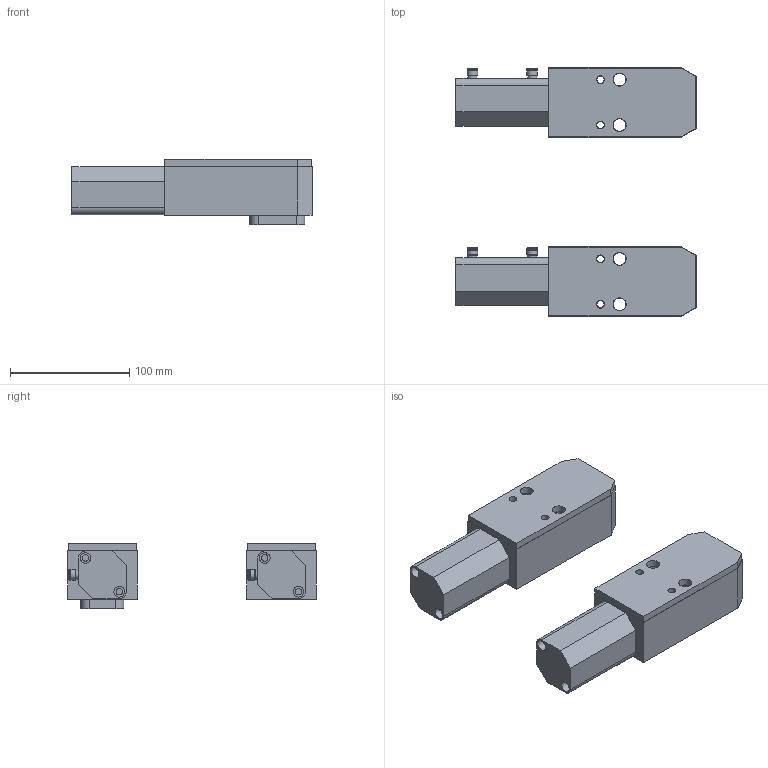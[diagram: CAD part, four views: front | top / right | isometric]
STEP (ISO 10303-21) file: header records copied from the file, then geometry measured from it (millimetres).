
FILE_DESCRIPTION(('STEP AP214'),'1');
FILE_NAME('1002.0025.stp','2020-05-22T14:12:29',(' '),(' '),'Spatial InterOp 3D',' ',' ');
FILE_SCHEMA(('AUTOMOTIVE_DESIGN { 1 0 10303 214 1 1 1 1 }'));
Length unit declared in the file: millimetre
Products named in the file (7): (PMS) 1002.0025; 5; 4; Assemblato; (PMI) 1002.0025; 6; 2
Assembly tree (6 placements, depth 3):
  Assemblato
    (PMS) 1002.0025
      5
      4
    (PMI) 1002.0025
      6
      2
Bounding box: 201 x 208 x 55 mm (x, y, z)
Volume: 808564.9 mm3; surface area: 140518.5 mm2
Topology: 4 solids, 4 shells, 788 faces, 2096 edges, 1396 vertices
Faces by surface type: extrusion 400, plane 264, cylinder 106, torus 12, cone 4, sphere 2
Full cylindrical faces by diameter (mm): 5.5 x4, 6 x4, 6.5 x4, 6.8 x4, 7.5 x8, 9 x12, 10.5 x4, 11 x4, 16.9 x4, 25 x2
Entity records: 31032 total; most frequent: CARTESIAN_POINT 6653, ORIENTED_EDGE 4016, DIRECTION 2628, EDGE_CURVE 2008, VECTOR 1378, VERTEX_POINT 1378, B_SPLINE_CURVE_WITH_KNOTS 1202, LINE 978
